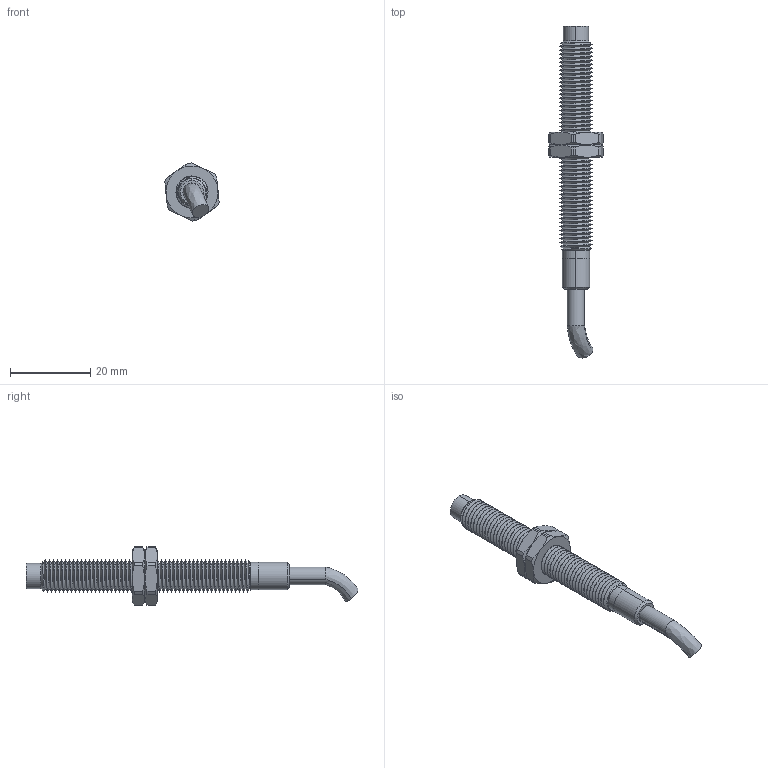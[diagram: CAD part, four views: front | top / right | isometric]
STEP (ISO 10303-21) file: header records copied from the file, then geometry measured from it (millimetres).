
FILE_DESCRIPTION (( 'STEP AP214' ), '1' );
FILE_NAME ('M8 Proximity Sensor.STEP', '2021-12-22T10:20:38', ( '' ), ( '' ), 'SwSTEP 2.0', 'SolidWorks 2014', '' );
FILE_SCHEMA (( 'AUTOMOTIVE_DESIGN' ));
Length unit declared in the file: millimetre
Products named in the file (1): M8 Proximity Sensor
Bounding box: 13.56 x 82.94 x 14.49 mm (x, y, z)
Surface area: 3570 mm2 (no closed solid volume)
Topology: 0 solids, 8 shells, 192 faces, 528 edges, 346 vertices
Faces by surface type: cylinder 128, cone 38, plane 22, bspline 4
Entity records: 12762 total; most frequent: CARTESIAN_POINT 6416, ORIENTED_EDGE 1026, DIRECTION 749, EDGE_CURVE 528, VERTEX_POINT 346, AXIS2_PLACEMENT_3D 299, EDGE_LOOP 200, UNCERTAINTY_MEASURE_WITH_UNIT 194
